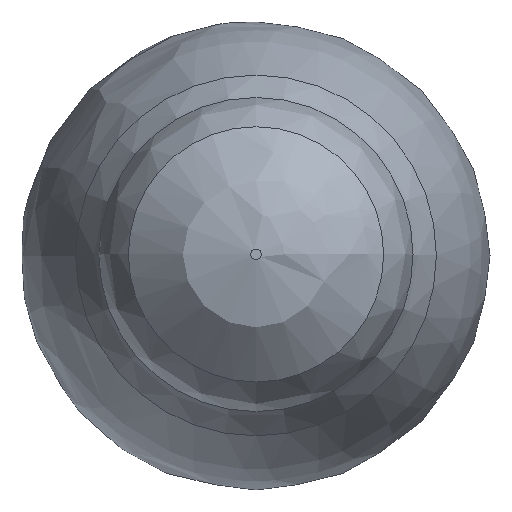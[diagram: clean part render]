
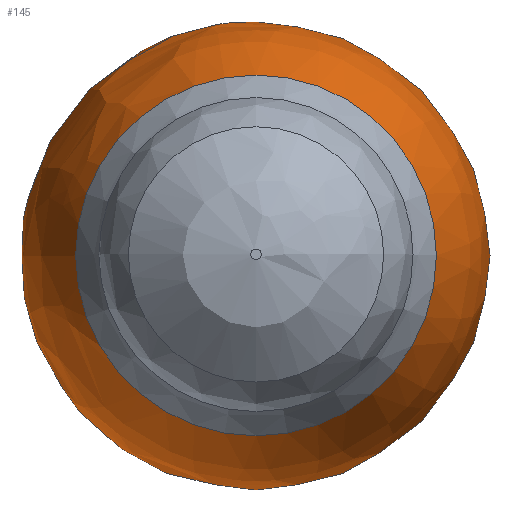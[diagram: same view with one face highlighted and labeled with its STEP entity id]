
A CAD part, top view. The second image highlights one B-rep face of the part: STEP entity #145.
In plain terms, the highlighted free-form (B-spline) face has degree [2, 2] with [3, 9] control points.
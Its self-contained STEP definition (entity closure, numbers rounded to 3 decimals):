
#31=FACE_OUTER_BOUND('',#41,.T.);
#41=EDGE_LOOP('',(#101,#102,#103,#104));
#51=CIRCLE('',#170,6.007);
#52=CIRCLE('',#171,25.5);
#53=CIRCLE('',#172,7.811);
#69=VERTEX_POINT('',#280);
#70=VERTEX_POINT('',#282);
#81=EDGE_CURVE('',#69,#69,#51,.T.);
#82=EDGE_CURVE('',#69,#70,#52,.T.);
#83=EDGE_CURVE('',#70,#70,#53,.T.);
#101=ORIENTED_EDGE('',*,*,#81,.F.);
#102=ORIENTED_EDGE('',*,*,#82,.T.);
#103=ORIENTED_EDGE('',*,*,#83,.T.);
#104=ORIENTED_EDGE('',*,*,#82,.F.);
#141=(
BOUNDED_SURFACE()
B_SPLINE_SURFACE(2,2,((#253,#254,#255,#256,#257,#258,#259,#260,#261),(#262,
#263,#264,#265,#266,#267,#268,#269,#270),(#271,#272,#273,#274,#275,#276,
#277,#278,#279)),.UNSPECIFIED.,.F.,.T.,.F.)
B_SPLINE_SURFACE_WITH_KNOTS((3,3),(3,2,2,2,3),(-0.582,0.436),
(-3.142,-1.571,0.,1.571,3.142),
 .UNSPECIFIED.)
GEOMETRIC_REPRESENTATION_ITEM()
RATIONAL_B_SPLINE_SURFACE(((1.,0.707,1.,0.707,1.,
0.707,1.,0.707,1.),(0.873,0.617,
0.873,0.617,0.873,0.617,0.873,
0.617,0.873),(1.,0.707,1.,0.707,
1.,0.707,1.,0.707,1.)))
REPRESENTATION_ITEM('')
SURFACE()
);
#145=ADVANCED_FACE('',(#31),#141,.F.);
#170=AXIS2_PLACEMENT_3D('',#281,#199,#200);
#171=AXIS2_PLACEMENT_3D('',#283,#201,#202);
#172=AXIS2_PLACEMENT_3D('',#284,#203,#204);
#199=DIRECTION('center_axis',(0.,0.,-1.));
#200=DIRECTION('ref_axis',(1.,0.,0.));
#201=DIRECTION('center_axis',(0.,1.,0.));
#202=DIRECTION('ref_axis',(-1.,0.,0.));
#203=DIRECTION('center_axis',(0.,0.,-1.));
#204=DIRECTION('ref_axis',(1.,0.,0.));
#253=CARTESIAN_POINT('Ctrl Pts',(11.693,50.,0.039));
#254=CARTESIAN_POINT('Ctrl Pts',(11.693,43.993,0.039));
#255=CARTESIAN_POINT('Ctrl Pts',(17.7,43.993,0.039));
#256=CARTESIAN_POINT('Ctrl Pts',(23.707,43.993,0.039));
#257=CARTESIAN_POINT('Ctrl Pts',(23.707,50.,0.039));
#258=CARTESIAN_POINT('Ctrl Pts',(23.707,56.007,0.039));
#259=CARTESIAN_POINT('Ctrl Pts',(17.7,56.007,0.039));
#260=CARTESIAN_POINT('Ctrl Pts',(11.693,56.007,0.039));
#261=CARTESIAN_POINT('Ctrl Pts',(11.693,50.,0.039));
#262=CARTESIAN_POINT('Ctrl Pts',(3.875,50.,11.929));
#263=CARTESIAN_POINT('Ctrl Pts',(3.875,36.175,11.929));
#264=CARTESIAN_POINT('Ctrl Pts',(17.7,36.175,11.929));
#265=CARTESIAN_POINT('Ctrl Pts',(31.525,36.175,11.929));
#266=CARTESIAN_POINT('Ctrl Pts',(31.525,50.,11.929));
#267=CARTESIAN_POINT('Ctrl Pts',(31.525,63.825,11.929));
#268=CARTESIAN_POINT('Ctrl Pts',(17.7,63.825,11.929));
#269=CARTESIAN_POINT('Ctrl Pts',(3.875,63.825,11.929));
#270=CARTESIAN_POINT('Ctrl Pts',(3.875,50.,11.929));
#271=CARTESIAN_POINT('Ctrl Pts',(9.889,50.,24.826));
#272=CARTESIAN_POINT('Ctrl Pts',(9.889,42.189,24.826));
#273=CARTESIAN_POINT('Ctrl Pts',(17.7,42.189,24.826));
#274=CARTESIAN_POINT('Ctrl Pts',(25.511,42.189,24.826));
#275=CARTESIAN_POINT('Ctrl Pts',(25.511,50.,24.826));
#276=CARTESIAN_POINT('Ctrl Pts',(25.511,57.811,24.826));
#277=CARTESIAN_POINT('Ctrl Pts',(17.7,57.811,24.826));
#278=CARTESIAN_POINT('Ctrl Pts',(9.889,57.811,24.826));
#279=CARTESIAN_POINT('Ctrl Pts',(9.889,50.,24.826));
#280=CARTESIAN_POINT('',(11.693,50.,0.039));
#281=CARTESIAN_POINT('Origin',(17.7,50.,0.039));
#282=CARTESIAN_POINT('',(9.889,50.,24.826));
#283=CARTESIAN_POINT('Origin',(33.,50.,14.049));
#284=CARTESIAN_POINT('Origin',(17.7,50.,24.826));
